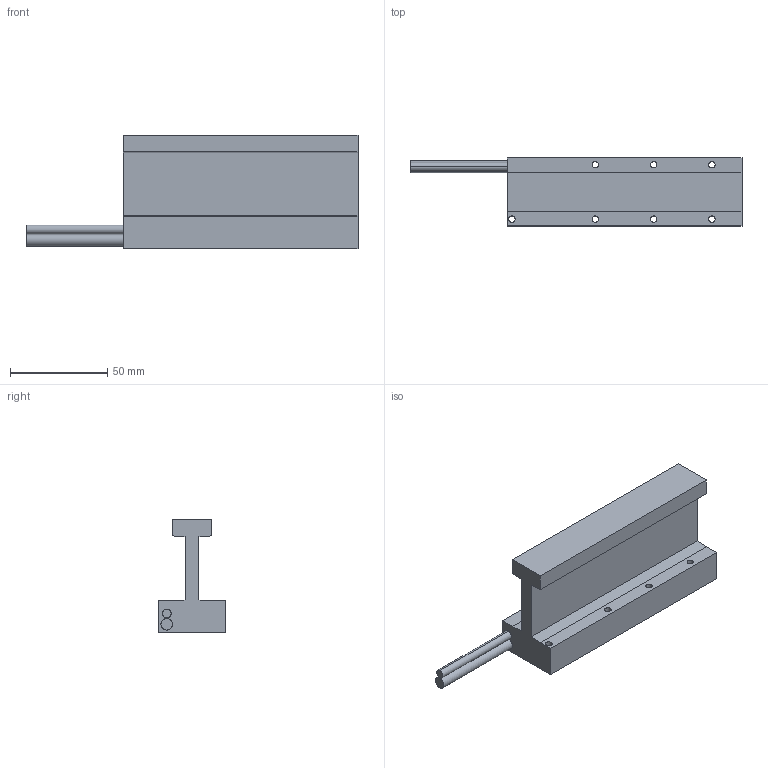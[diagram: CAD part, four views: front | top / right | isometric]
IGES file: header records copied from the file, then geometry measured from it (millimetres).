
Start section: SolidWorks IGES file using analytic representation for surfaces
Global section: file name: C:\Users\admin\Desktop\LM无铁芯U型电机 - 副本\FU300模型图\FU300-121.IGS; native system: SolidWorks 2016; preprocessor: SolidWorks 2016; author: admin; date: 201103.133952; units: millimetre
Bounding box: 171 x 35 x 58.7 mm (x, y, z)
Surface area: 30369.5 mm2 (no closed solid volume)
Topology: 0 solids, 0 shells, 36 faces, 732 edges, 732 vertices
Faces by surface type: revolution 18, bspline 18
